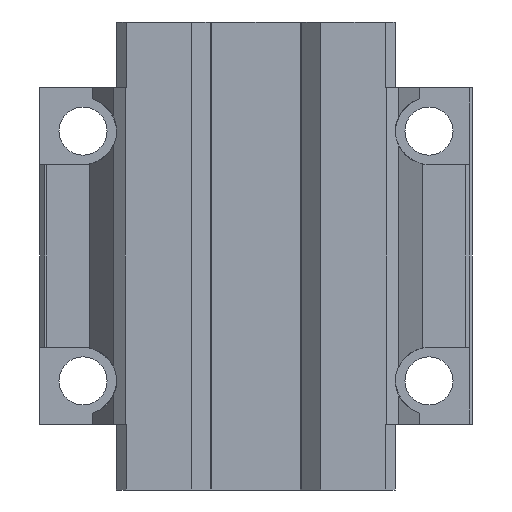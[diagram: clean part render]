
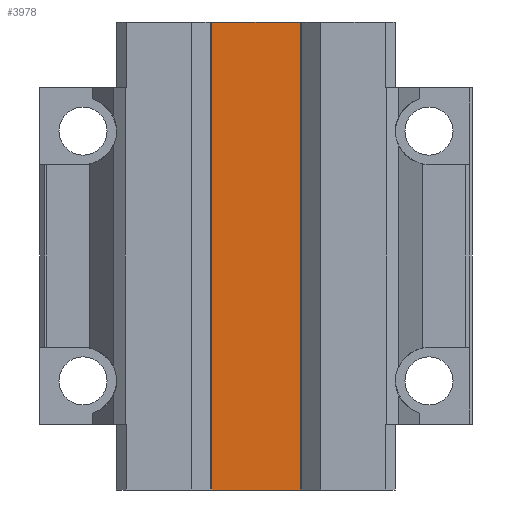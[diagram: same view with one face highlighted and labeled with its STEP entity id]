
A CAD part, front view. The second image highlights one B-rep face of the part: STEP entity #3978.
In plain terms, the highlighted planar face has unit normal (0, -1, 0).
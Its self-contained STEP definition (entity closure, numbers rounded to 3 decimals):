
#181 = LINE ( 'NONE', #6142, #5489 ) ;
#428 = LINE ( 'NONE', #6925, #8741 ) ;
#910 = VECTOR ( 'NONE', #6649, 1000. ) ;
#1158 = ORIENTED_EDGE ( 'NONE', *, *, #3374, .F. ) ;
#1213 = LINE ( 'NONE', #3203, #1406 ) ;
#1297 = PLANE ( 'NONE',  #8867 ) ;
#1373 = VERTEX_POINT ( 'NONE', #4482 ) ;
#1406 = VECTOR ( 'NONE', #1822, 1000. ) ;
#1822 = DIRECTION ( 'NONE',  ( 1., 0., 0. ) ) ;
#2327 = VERTEX_POINT ( 'NONE', #3578 ) ;
#2685 = CARTESIAN_POINT ( 'NONE',  ( -9.256, 0., 48.7 ) ) ;
#2754 = LINE ( 'NONE', #5969, #910 ) ;
#3203 = CARTESIAN_POINT ( 'NONE',  ( -9.256, 0., -48.7 ) ) ;
#3374 = EDGE_CURVE ( 'NONE', #2327, #7599, #428, .T. ) ;
#3375 = DIRECTION ( 'NONE',  ( -1., 0., 0. ) ) ;
#3578 = CARTESIAN_POINT ( 'NONE',  ( -9.256, 0., 48.7 ) ) ;
#3978 = ADVANCED_FACE ( 'NONE', ( #4255 ), #1297, .F. ) ;
#4050 = ORIENTED_EDGE ( 'NONE', *, *, #7038, .T. ) ;
#4188 = EDGE_CURVE ( 'NONE', #7599, #8052, #2754, .T. ) ;
#4255 = FACE_OUTER_BOUND ( 'NONE', #7548, .T. ) ;
#4482 = CARTESIAN_POINT ( 'NONE',  ( -9.256, 0., -48.7 ) ) ;
#5102 = CARTESIAN_POINT ( 'NONE',  ( 9.256, 0., -48.7 ) ) ;
#5467 = DIRECTION ( 'NONE',  ( 0., 0., -1. ) ) ;
#5489 = VECTOR ( 'NONE', #5467, 1000. ) ;
#5969 = CARTESIAN_POINT ( 'NONE',  ( 9.256, 0., 48.7 ) ) ;
#6142 = CARTESIAN_POINT ( 'NONE',  ( -9.256, 0., 48.7 ) ) ;
#6649 = DIRECTION ( 'NONE',  ( 0., 0., -1. ) ) ;
#6925 = CARTESIAN_POINT ( 'NONE',  ( 0., 0., 48.7 ) ) ;
#7038 = EDGE_CURVE ( 'NONE', #1373, #8052, #1213, .T. ) ;
#7402 = CARTESIAN_POINT ( 'NONE',  ( 9.256, 0., 48.7 ) ) ;
#7511 = DIRECTION ( 'NONE',  ( 0., 1., 0. ) ) ;
#7548 = EDGE_LOOP ( 'NONE', ( #8422, #4050, #8734, #1158 ) ) ;
#7599 = VERTEX_POINT ( 'NONE', #7402 ) ;
#8052 = VERTEX_POINT ( 'NONE', #5102 ) ;
#8209 = EDGE_CURVE ( 'NONE', #2327, #1373, #181, .T. ) ;
#8422 = ORIENTED_EDGE ( 'NONE', *, *, #8209, .T. ) ;
#8734 = ORIENTED_EDGE ( 'NONE', *, *, #4188, .F. ) ;
#8741 = VECTOR ( 'NONE', #8978, 1000. ) ;
#8867 = AXIS2_PLACEMENT_3D ( 'NONE', #2685, #7511, #3375 ) ;
#8978 = DIRECTION ( 'NONE',  ( 1., 0., 0. ) ) ;
